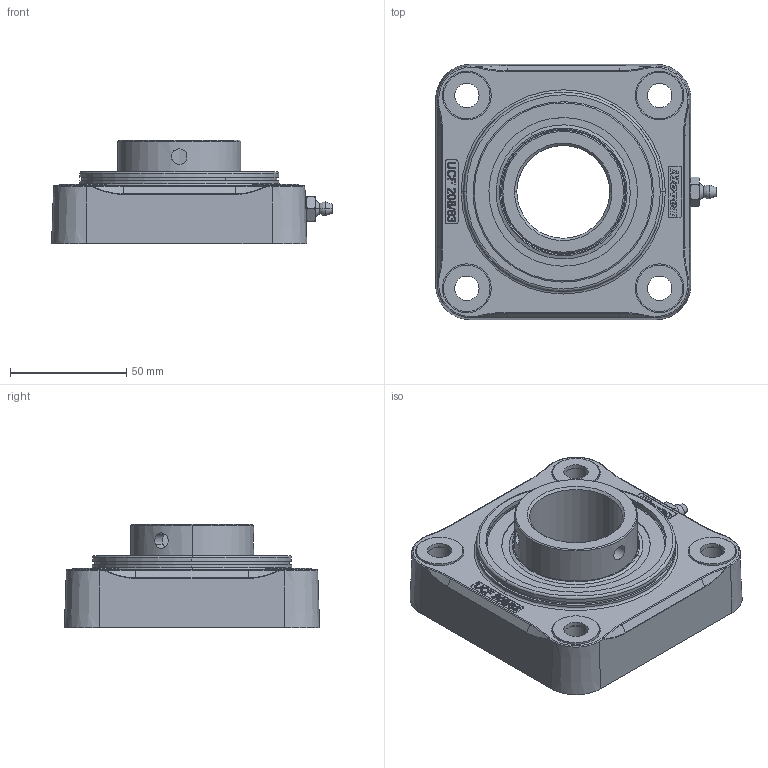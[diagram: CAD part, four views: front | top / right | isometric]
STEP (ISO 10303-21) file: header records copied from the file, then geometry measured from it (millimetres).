
FILE_DESCRIPTION(('CATIA V5 STEP Exchange'),'2;1');
FILE_NAME('C:\Users\dentellad\Desktop\P82804_01.stp','2017-01-13T07:24:47+00:00',('none'),('none'),'Version 5-6 Release 2012','CATIA V5 STEP AP203','none');
FILE_SCHEMA(('CONFIG_CONTROL_DESIGN'));
Products named in the file (1): Product1
Assembly tree (11 placements, depth 2):
  Product1
    #58
    #73870
    #77118
    #78548  x4
    #78858  x4
Bounding box: 120.93 x 109.93 x 44.5 mm (x, y, z)
Volume: 231006.3 mm3; surface area: 82095.9 mm2
Topology: 32 solids, 32 shells, 2512 faces, 7169 edges, 4686 vertices
Faces by surface type: plane 2165, cylinder 140, cone 70, sphere 54, torus 38, bspline 25, revolution 20
Entity records: 79039 total; most frequent: CARTESIAN_POINT 15660, ORIENTED_EDGE 13982, DIRECTION 11492, EDGE_CURVE 6991, VECTOR 6463, LINE 6463, VERTEX_POINT 4626, AXIS2_PLACEMENT_3D 2704
